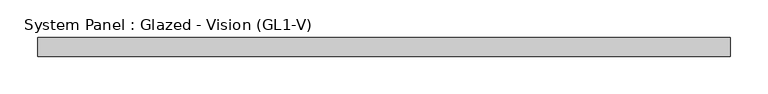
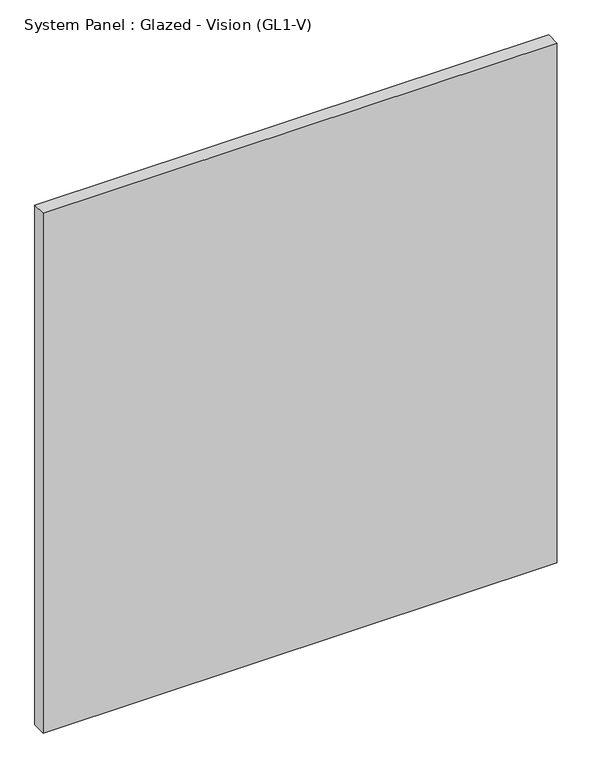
"""IFC4 building model written with IfcOpenShell, lengths in millimetres: plate geometry, System Panel : Glazed - Vision (GL1-V)."""

from ifc_helpers import new_model, si_unit, origin, origin_with_axes, place, context, project, spatial, polyline, outline, extrude, source, transform, mapped, element, save


def system_panel_glazed_vision_gl1_v_178fc0c1(model_context):
    return source(origin(), model_context, "Body", "SweptSolid", [
        extrude(outline(polyline([(460.375, -25.4), (-460.375, -25.4), (-460.375, 0.0), (460.375, 0.0), (460.375, -25.4)])), origin_with_axes(), (0.0, 0.0, 1.0), 984.25),
    ])


if __name__ == "__main__":
    model = new_model("IFC4")
    model_context = context("Model", 3, world=origin())
    ifc_project = project(units=[si_unit("LENGTHUNIT", "METRE", prefix="MILLI")], contexts=[model_context])
    site = spatial("IfcSite", under=ifc_project)
    building = spatial("IfcBuilding", under=site)
    placement = place(None, origin())
    system_panel_glazed_vision_gl1_v_shape = system_panel_glazed_vision_gl1_v_178fc0c1(model_context)
    element("IfcPlate", 1, ObjectType="System Panel : Glazed - Vision (GL1-V)", at=placement, inside=building, context=model_context, shape_type="MappedRepresentation", body=[
        mapped(system_panel_glazed_vision_gl1_v_shape, transform((0.0, 0.0, 0.0), x_axis=(1.0, 0.0, 0.0), y_axis=(0.0, 1.0, 0.0), z_axis=(0.0, 0.0, 1.0))),
    ])
    save(model, "model.ifc")
